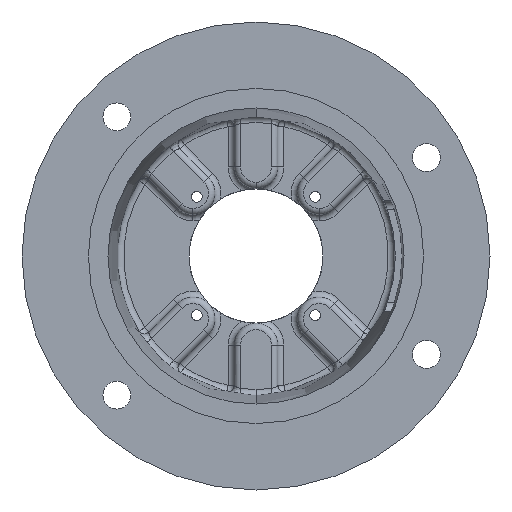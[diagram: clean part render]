
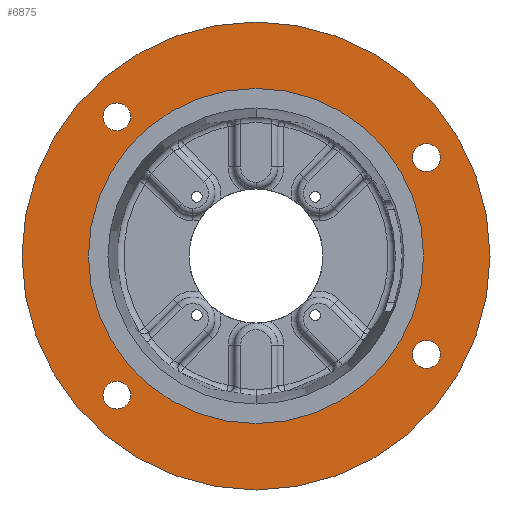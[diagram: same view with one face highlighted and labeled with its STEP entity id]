
A CAD part, front view. The second image highlights one B-rep face of the part: STEP entity #6875.
In plain terms, the highlighted planar face has unit normal (0, -1, 0).
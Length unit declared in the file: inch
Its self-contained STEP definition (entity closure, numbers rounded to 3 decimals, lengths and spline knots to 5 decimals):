
#280 = CARTESIAN_POINT ( 'NONE',  ( -3.27037, 0., 3.27037 ) ) ;
#314 = AXIS2_PLACEMENT_3D ( 'NONE', #7190, #1043, #8222 ) ;
#410 = DIRECTION ( 'NONE',  ( 0., 0., -1. ) ) ;
#468 = PLANE ( 'NONE',  #1540 ) ;
#486 = DIRECTION ( 'NONE',  ( 0., -1., 0. ) ) ;
#619 = FACE_BOUND ( 'NONE', #1362, .T. ) ;
#629 = EDGE_CURVE ( 'NONE', #9409, #3126, #785, .T. ) ;
#684 = CIRCLE ( 'NONE', #8560, 0.32812 ) ;
#785 = CIRCLE ( 'NONE', #7273, 0.32812 ) ;
#870 = CARTESIAN_POINT ( 'NONE',  ( 4.00537, 0., 1.98437 ) ) ;
#874 = AXIS2_PLACEMENT_3D ( 'NONE', #8700, #2544, #9715 ) ;
#1043 = DIRECTION ( 'NONE',  ( 0., -1., 0. ) ) ;
#1196 = EDGE_CURVE ( 'NONE', #5750, #6922, #2673, .T. ) ;
#1362 = EDGE_LOOP ( 'NONE', ( #1555, #8665 ) ) ;
#1479 = CARTESIAN_POINT ( 'NONE',  ( -5.5, 0., 0. ) ) ;
#1483 = CIRCLE ( 'NONE', #9073, 5.5 ) ;
#1540 = AXIS2_PLACEMENT_3D ( 'NONE', #1479, #10758, #4547 ) ;
#1555 = ORIENTED_EDGE ( 'NONE', *, *, #3431, .F. ) ;
#1684 = VERTEX_POINT ( 'NONE', #10023 ) ;
#1754 = CARTESIAN_POINT ( 'NONE',  ( 0., 0., 0. ) ) ;
#1757 = CARTESIAN_POINT ( 'NONE',  ( -3.27037, 0., 2.94224 ) ) ;
#1874 = ORIENTED_EDGE ( 'NONE', *, *, #629, .F. ) ;
#1996 = ORIENTED_EDGE ( 'NONE', *, *, #10170, .F. ) ;
#2110 = CIRCLE ( 'NONE', #10291, 0.32812 ) ;
#2190 = AXIS2_PLACEMENT_3D ( 'NONE', #7474, #7455, #7433 ) ;
#2502 = EDGE_CURVE ( 'NONE', #11971, #4956, #10678, .T. ) ;
#2544 = DIRECTION ( 'NONE',  ( 0., -1., 0. ) ) ;
#2579 = EDGE_CURVE ( 'NONE', #1684, #9235, #2110, .T. ) ;
#2673 = CIRCLE ( 'NONE', #10195, 0.32812 ) ;
#2788 = DIRECTION ( 'NONE',  ( 0., 0., -1. ) ) ;
#2917 = EDGE_CURVE ( 'NONE', #9235, #1684, #5346, .T. ) ;
#2964 = CARTESIAN_POINT ( 'NONE',  ( 0., 0., 3.9385 ) ) ;
#3032 = CARTESIAN_POINT ( 'NONE',  ( 4.00537, 0., -2.64063 ) ) ;
#3055 = AXIS2_PLACEMENT_3D ( 'NONE', #6047, #5490, #5448 ) ;
#3070 = EDGE_LOOP ( 'NONE', ( #8993, #1874 ) ) ;
#3126 = VERTEX_POINT ( 'NONE', #1757 ) ;
#3318 = FACE_BOUND ( 'NONE', #9509, .T. ) ;
#3418 = CARTESIAN_POINT ( 'NONE',  ( 0., 0., -5.5 ) ) ;
#3431 = EDGE_CURVE ( 'NONE', #4956, #11971, #4509, .T. ) ;
#3522 = CARTESIAN_POINT ( 'NONE',  ( 4.00537, 0., -1.98438 ) ) ;
#3706 = DIRECTION ( 'NONE',  ( 0., 0., -1. ) ) ;
#3934 = DIRECTION ( 'NONE',  ( 0., 0., -1. ) ) ;
#4091 = AXIS2_PLACEMENT_3D ( 'NONE', #6694, #6721, #6735 ) ;
#4244 = ORIENTED_EDGE ( 'NONE', *, *, #2579, .F. ) ;
#4296 = DIRECTION ( 'NONE',  ( 0., -1., 0. ) ) ;
#4464 = EDGE_CURVE ( 'NONE', #3126, #9409, #4998, .T. ) ;
#4504 = CARTESIAN_POINT ( 'NONE',  ( -3.27037, 0., -3.27037 ) ) ;
#4509 = CIRCLE ( 'NONE', #3055, 0.32812 ) ;
#4547 = DIRECTION ( 'NONE',  ( 0., 0., 1. ) ) ;
#4956 = VERTEX_POINT ( 'NONE', #3032 ) ;
#4998 = CIRCLE ( 'NONE', #4091, 0.32812 ) ;
#5103 = ORIENTED_EDGE ( 'NONE', *, *, #10006, .T. ) ;
#5346 = CIRCLE ( 'NONE', #2190, 0.32812 ) ;
#5448 = DIRECTION ( 'NONE',  ( 0., 0., -1. ) ) ;
#5490 = DIRECTION ( 'NONE',  ( 0., -1., 0. ) ) ;
#5512 = CARTESIAN_POINT ( 'NONE',  ( -3.27037, 0., 3.59849 ) ) ;
#5635 = VERTEX_POINT ( 'NONE', #3418 ) ;
#5750 = VERTEX_POINT ( 'NONE', #870 ) ;
#5766 = FACE_OUTER_BOUND ( 'NONE', #12995, .T. ) ;
#5779 = EDGE_LOOP ( 'NONE', ( #8508, #4244 ) ) ;
#6047 = CARTESIAN_POINT ( 'NONE',  ( 4.00537, 0., -2.3125 ) ) ;
#6081 = FACE_BOUND ( 'NONE', #5779, .T. ) ;
#6154 = CARTESIAN_POINT ( 'NONE',  ( -3.27037, 0., -3.59849 ) ) ;
#6309 = ORIENTED_EDGE ( 'NONE', *, *, #1196, .F. ) ;
#6539 = DIRECTION ( 'NONE',  ( 0., -1., 0. ) ) ;
#6621 = CARTESIAN_POINT ( 'NONE',  ( 4.00537, 0., 2.3125 ) ) ;
#6694 = CARTESIAN_POINT ( 'NONE',  ( -3.27037, 0., 3.27037 ) ) ;
#6721 = DIRECTION ( 'NONE',  ( 0., -1., 0. ) ) ;
#6735 = DIRECTION ( 'NONE',  ( 0., 0., -1. ) ) ;
#6811 = CIRCLE ( 'NONE', #314, 3.9385 ) ;
#6860 = AXIS2_PLACEMENT_3D ( 'NONE', #10788, #10449, #10548 ) ;
#6875 = ADVANCED_FACE ( 'NONE', ( #3318, #619, #6081, #11573, #11258, #5766 ), #468, .F. ) ;
#6893 = EDGE_CURVE ( 'NONE', #9723, #11083, #10918, .T. ) ;
#6922 = VERTEX_POINT ( 'NONE', #8742 ) ;
#7190 = CARTESIAN_POINT ( 'NONE',  ( 0., 0., 0. ) ) ;
#7273 = AXIS2_PLACEMENT_3D ( 'NONE', #280, #10855, #3706 ) ;
#7431 = AXIS2_PLACEMENT_3D ( 'NONE', #1754, #8943, #2788 ) ;
#7433 = DIRECTION ( 'NONE',  ( 0., 0., -1. ) ) ;
#7455 = DIRECTION ( 'NONE',  ( 0., -1., 0. ) ) ;
#7474 = CARTESIAN_POINT ( 'NONE',  ( -3.27037, 0., -3.27037 ) ) ;
#7647 = DIRECTION ( 'NONE',  ( 0., 0., -1. ) ) ;
#7819 = DIRECTION ( 'NONE',  ( 0., 0., -1. ) ) ;
#7962 = DIRECTION ( 'NONE',  ( 0., -1., 0. ) ) ;
#8012 = CARTESIAN_POINT ( 'NONE',  ( 4.00537, 0., 2.3125 ) ) ;
#8222 = DIRECTION ( 'NONE',  ( 0., 0., -1. ) ) ;
#8483 = ORIENTED_EDGE ( 'NONE', *, *, #12388, .F. ) ;
#8495 = VERTEX_POINT ( 'NONE', #12163 ) ;
#8508 = ORIENTED_EDGE ( 'NONE', *, *, #2917, .F. ) ;
#8560 = AXIS2_PLACEMENT_3D ( 'NONE', #6621, #486, #7647 ) ;
#8665 = ORIENTED_EDGE ( 'NONE', *, *, #2502, .F. ) ;
#8700 = CARTESIAN_POINT ( 'NONE',  ( 0., 0., 0. ) ) ;
#8742 = CARTESIAN_POINT ( 'NONE',  ( 4.00537, 0., 2.64062 ) ) ;
#8943 = DIRECTION ( 'NONE',  ( 0., -1., 0. ) ) ;
#8993 = ORIENTED_EDGE ( 'NONE', *, *, #4464, .F. ) ;
#9073 = AXIS2_PLACEMENT_3D ( 'NONE', #12768, #6539, #410 ) ;
#9235 = VERTEX_POINT ( 'NONE', #6154 ) ;
#9409 = VERTEX_POINT ( 'NONE', #5512 ) ;
#9509 = EDGE_LOOP ( 'NONE', ( #6309, #8483 ) ) ;
#9524 = CARTESIAN_POINT ( 'NONE',  ( 0., 0., -3.9385 ) ) ;
#9715 = DIRECTION ( 'NONE',  ( 0., 0., -1. ) ) ;
#9723 = VERTEX_POINT ( 'NONE', #2964 ) ;
#10006 = EDGE_CURVE ( 'NONE', #8495, #5635, #10859, .T. ) ;
#10023 = CARTESIAN_POINT ( 'NONE',  ( -3.27037, 0., -2.94224 ) ) ;
#10170 = EDGE_CURVE ( 'NONE', #11083, #9723, #6811, .T. ) ;
#10195 = AXIS2_PLACEMENT_3D ( 'NONE', #8012, #7962, #7819 ) ;
#10291 = AXIS2_PLACEMENT_3D ( 'NONE', #4504, #4296, #3934 ) ;
#10449 = DIRECTION ( 'NONE',  ( 0., -1., 0. ) ) ;
#10544 = EDGE_LOOP ( 'NONE', ( #1996, #11503 ) ) ;
#10548 = DIRECTION ( 'NONE',  ( 0., 0., -1. ) ) ;
#10678 = CIRCLE ( 'NONE', #6860, 0.32812 ) ;
#10758 = DIRECTION ( 'NONE',  ( 0., 1., 0. ) ) ;
#10788 = CARTESIAN_POINT ( 'NONE',  ( 4.00537, 0., -2.3125 ) ) ;
#10855 = DIRECTION ( 'NONE',  ( 0., -1., 0. ) ) ;
#10859 = CIRCLE ( 'NONE', #7431, 5.5 ) ;
#10918 = CIRCLE ( 'NONE', #874, 3.9385 ) ;
#11083 = VERTEX_POINT ( 'NONE', #9524 ) ;
#11132 = ORIENTED_EDGE ( 'NONE', *, *, #11921, .T. ) ;
#11258 = FACE_BOUND ( 'NONE', #10544, .T. ) ;
#11503 = ORIENTED_EDGE ( 'NONE', *, *, #6893, .F. ) ;
#11573 = FACE_BOUND ( 'NONE', #3070, .T. ) ;
#11921 = EDGE_CURVE ( 'NONE', #5635, #8495, #1483, .T. ) ;
#11971 = VERTEX_POINT ( 'NONE', #3522 ) ;
#12163 = CARTESIAN_POINT ( 'NONE',  ( 0., 0., 5.5 ) ) ;
#12388 = EDGE_CURVE ( 'NONE', #6922, #5750, #684, .T. ) ;
#12768 = CARTESIAN_POINT ( 'NONE',  ( 0., 0., 0. ) ) ;
#12995 = EDGE_LOOP ( 'NONE', ( #11132, #5103 ) ) ;
